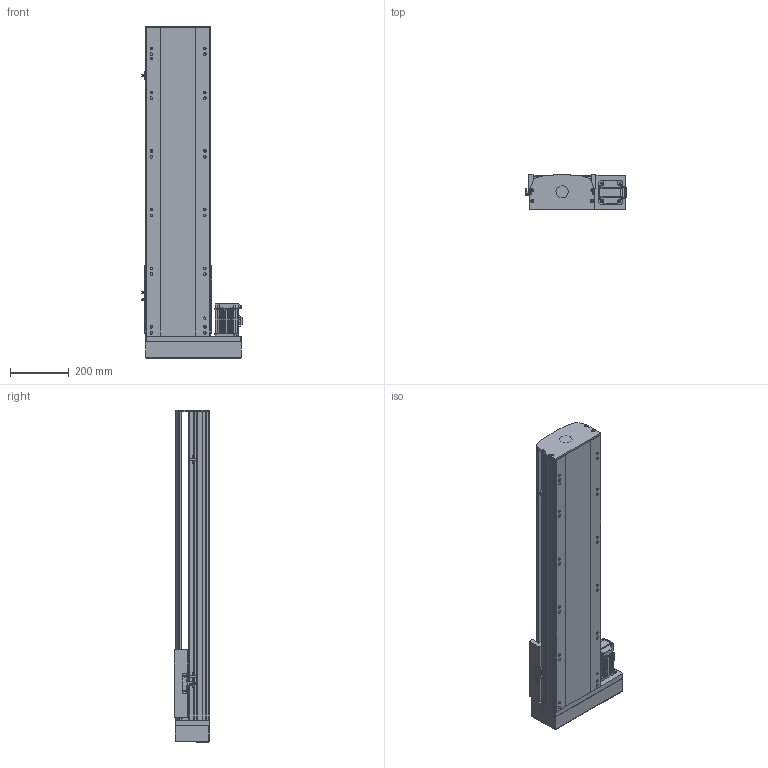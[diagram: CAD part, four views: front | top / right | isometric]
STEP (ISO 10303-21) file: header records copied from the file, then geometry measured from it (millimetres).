
FILE_DESCRIPTION (( 'STEP AP214' ), '1' );
FILE_NAME ('QTH22-750-BR-P75.STEP', '2021-11-13T10:41:06', ( '' ), ( '' ), 'SwSTEP 2.0', 'SolidWorks 2020', '' );
FILE_SCHEMA (( 'AUTOMOTIVE_DESIGN' ));
Length unit declared in the file: millimetre
Products named in the file (6): 葩璃 QTH22-BR-002 奻裔MZ-220-02^QTH22-BR-P75; 葩璃 QTH22-BC-005 賑釱MZ-220-03^QTH22-BR-P75_SFA25; 葩璃 MSMD08PC_P75^QTH22-BR-P75; 葩璃 QTH22-BR-001 菁釱MZ-220-01^QTH22-BR-P75; QTH22-750-BR-P75; 葩璃 pm-t65-672^QTH22-BR-P75
Assembly tree (7 placements, depth 2):
  QTH22-750-BR-P75
    葩璃 QTH22-BR-001 菁釱MZ-220-01^QTH22-BR-P75
    葩璃 QTH22-BR-002 奻裔MZ-220-02^QTH22-BR-P75
    葩璃 QTH22-BC-005 賑釱MZ-220-03^QTH22-BR-P75_SFA25
    葩璃 pm-t65-672^QTH22-BR-P75  x3
    葩璃 MSMD08PC_P75^QTH22-BR-P75
Bounding box: 342.2 x 122 x 1132 mm (x, y, z)
Volume: 16449234.4 mm3; surface area: 1782084.8 mm2
Topology: 11 solids, 11 shells, 1557 faces, 4134 edges, 2649 vertices
Faces by surface type: plane 912, cylinder 537, cone 86, bspline 22
Entity records: 43561 total; most frequent: CARTESIAN_POINT 9097, DIRECTION 6961, ORIENTED_EDGE 6836, EDGE_CURVE 3418, LINE 2321, VECTOR 2321, AXIS2_PLACEMENT_3D 2320, VERTEX_POINT 2225
